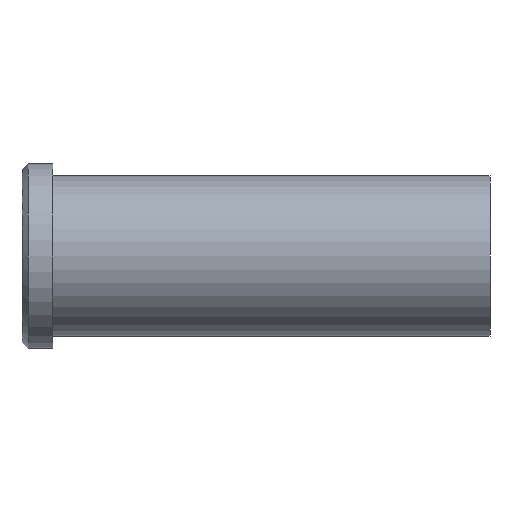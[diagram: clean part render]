
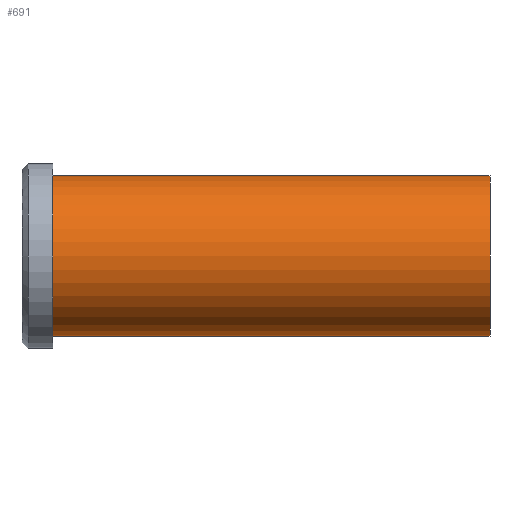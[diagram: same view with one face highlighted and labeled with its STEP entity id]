
A CAD part, front view. The second image highlights one B-rep face of the part: STEP entity #691.
In plain terms, the highlighted cylindrical face has radius 13 mm (diameter 26 mm), a partial arc.
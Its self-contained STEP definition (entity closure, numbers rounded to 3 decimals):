
#501=CARTESIAN_POINT('Vertex',(0.,0.,-13.)) ;
#506=CARTESIAN_POINT('Axis2P3D Location',(0.,0.,0.)) ;
#510=CARTESIAN_POINT('Vertex',(0.,-13.,0.)) ;
#513=CARTESIAN_POINT('Axis2P3D Location',(0.,0.,0.)) ;
#517=CARTESIAN_POINT('Vertex',(0.,0.,13.)) ;
#631=CARTESIAN_POINT('Line Origine',(71.,0.,13.)) ;
#635=CARTESIAN_POINT('Vertex',(71.,0.,13.)) ;
#649=CARTESIAN_POINT('Vertex',(71.,0.,-13.)) ;
#652=CARTESIAN_POINT('Line Origine',(71.,0.,-13.)) ;
#666=CARTESIAN_POINT('Axis2P3D Location',(71.,0.,0.)) ;
#671=CARTESIAN_POINT('Axis2P3D Location',(71.,0.,0.)) ;
#675=CARTESIAN_POINT('Vertex',(71.,-13.,0.)) ;
#678=CARTESIAN_POINT('Axis2P3D Location',(71.,0.,0.)) ;
#507=DIRECTION('Axis2P3D Direction',(1.,0.,-0.)) ;
#514=DIRECTION('Axis2P3D Direction',(1.,0.,-0.)) ;
#632=DIRECTION('Vector Direction',(-1.,0.,0.)) ;
#653=DIRECTION('Vector Direction',(-1.,0.,0.)) ;
#667=DIRECTION('Axis2P3D Direction',(-1.,-0.,-0.)) ;
#668=DIRECTION('Axis2P3D XDirection',(0.,0.,-1.)) ;
#672=DIRECTION('Axis2P3D Direction',(-1.,-0.,-0.)) ;
#679=DIRECTION('Axis2P3D Direction',(-1.,-0.,-0.)) ;
#508=AXIS2_PLACEMENT_3D('Circle Axis2P3D',#506,#507,$) ;
#515=AXIS2_PLACEMENT_3D('Circle Axis2P3D',#513,#514,$) ;
#669=AXIS2_PLACEMENT_3D('Cylinder Axis2P3D',#666,#667,#668) ;
#673=AXIS2_PLACEMENT_3D('Circle Axis2P3D',#671,#672,$) ;
#680=AXIS2_PLACEMENT_3D('Circle Axis2P3D',#678,#679,$) ;
#684=ORIENTED_EDGE('',*,*,#656,.T.) ;
#685=ORIENTED_EDGE('',*,*,#677,.F.) ;
#686=ORIENTED_EDGE('',*,*,#682,.F.) ;
#687=ORIENTED_EDGE('',*,*,#637,.T.) ;
#688=ORIENTED_EDGE('',*,*,#519,.T.) ;
#689=ORIENTED_EDGE('',*,*,#512,.T.) ;
#633=VECTOR('Line Direction',#632,1.) ;
#654=VECTOR('Line Direction',#653,1.) ;
#691=ADVANCED_FACE('353-18X76',(#690),#670,.T.) ;
#509=CIRCLE('generated circle',#508,13.) ;
#516=CIRCLE('generated circle',#515,13.) ;
#674=CIRCLE('generated circle',#673,13.) ;
#681=CIRCLE('generated circle',#680,13.) ;
#670=CYLINDRICAL_SURFACE('generated cylinder',#669,13.) ;
#512=EDGE_CURVE('',#511,#502,#509,.T.) ;
#519=EDGE_CURVE('',#518,#511,#516,.T.) ;
#637=EDGE_CURVE('',#636,#518,#634,.T.) ;
#656=EDGE_CURVE('',#502,#650,#655,.F.) ;
#677=EDGE_CURVE('',#676,#650,#674,.F.) ;
#682=EDGE_CURVE('',#636,#676,#681,.F.) ;
#683=EDGE_LOOP('',(#684,#685,#686,#687,#688,#689)) ;
#690=FACE_OUTER_BOUND('',#683,.T.) ;
#634=LINE('Line',#631,#633) ;
#655=LINE('Line',#652,#654) ;
#502=VERTEX_POINT('',#501) ;
#511=VERTEX_POINT('',#510) ;
#518=VERTEX_POINT('',#517) ;
#636=VERTEX_POINT('',#635) ;
#650=VERTEX_POINT('',#649) ;
#676=VERTEX_POINT('',#675) ;
